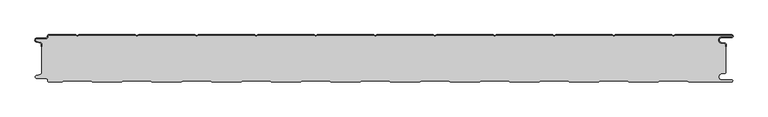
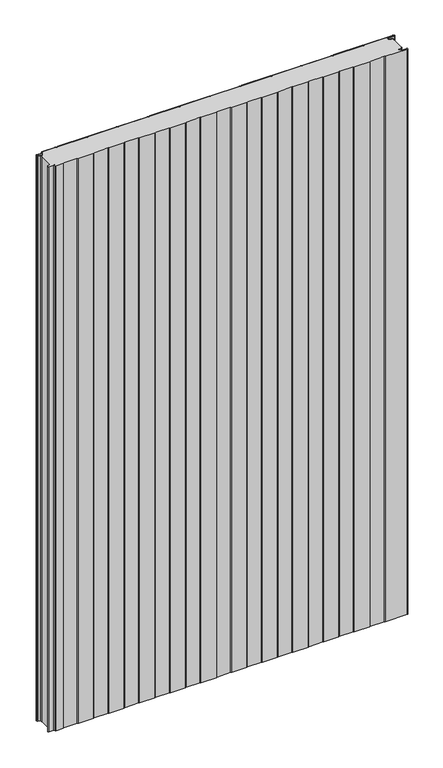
"""IFC4 building model written with IfcOpenShell, lengths in millimetres: plate geometry, PM1_Curtain-Panel_Perfil-Estándar : ACH_PM1_Panel-Acústico-Sectorización_80M."""

from ifc_helpers import new_model, si_unit, point, frame, frame_2d, origin, origin_with_axes, place, context, project, spatial, polyline, circle_curve, trimmed, segment, composite_curve, outline, extrude, source, transform, mapped, element, save
from ifc_brep_helpers import plane_surface, cylinder_surface, revolved_surface, advanced_brep


def plate_73e4d42a(model_context):
    return source(origin(), model_context, "Body", "SolidModel", [
        advanced_brep(
        [(-575.0, -15.878557, 1945.7507136), (-575.0, -20.0, 1945.7507136), (-574.2, -20.0, 1945.7507136), (-574.2, -15.878557, 1945.7507136), (-576.370137, -13.1503208, 1945.7507136), (-582.529863, -11.728236, 1945.7507136), (-581.9, -6.2, 1945.7507136), (-566.4, -6.2, 1945.7507136), (-563.6, -3.4, 1945.7507136), (-563.6, -2.0, 1945.7507136), (-562.4, -0.8, 1945.7507136), (-517.3143588, -0.8, 1945.7507136), (-514.4, -2.482606, 1945.7507136), (-511.4856412, -0.8, 1945.7507136), (-417.3143588, -0.8, 1945.7507136), (-414.4, -2.482606, 1945.7507136), (-411.4856412, -0.8, 1945.7507136), (-317.3143588, -0.8, 1945.7507136), (-314.4, -2.482606, 1945.7507136), (-311.4856412, -0.8, 1945.7507136), (-217.3143588, -0.8, 1945.7507136), (-214.4, -2.482606, 1945.7507136), (-211.4856412, -0.8, 1945.7507136), (-117.3143588, -0.8, 1945.7507136), (-114.4, -2.482606, 1945.7507136), (-111.4856412, -0.8, 1945.7507136), (-17.3143588, -0.8, 1945.7507136), (-14.4, -2.482606, 1945.7507136), (-11.4856412, -0.8, 1945.7507136), (82.6856412, -0.8, 1945.7507136), (85.6, -2.482606, 1945.7507136), (88.5143588, -0.8, 1945.7507136), (182.6856412, -0.8, 1945.7507136), (185.6, -2.482606, 1945.7507136), (188.5143588, -0.8, 1945.7507136), (282.6856412, -0.8, 1945.7507136), (285.6, -2.482606, 1945.7507136), (288.5143588, -0.8, 1945.7507136), (382.6856412, -0.8, 1945.7507136), (385.6, -2.482606, 1945.7507136), (388.5143588, -0.8, 1945.7507136), (482.6856412, -0.8, 1945.7507136), (485.6, -2.482606, 1945.7507136), (488.5143588, -0.8, 1945.7507136), (583.1, -0.8, 1945.7507136), (583.1, -4.2, 1945.7507136), (566.1, -4.2, 1945.7507136), (565.2664884, -13.7270771, 1945.7507136), (571.7125669, -14.8636953, 1945.7507136), (573.2, -16.6363492, 1945.7507136), (573.2, -20.0, 1945.7507136), (574.0, -20.0, 1945.7507136), (574.0, -16.6363492, 1945.7507136), (571.8514855, -14.0758491, 1945.7507136), (565.405407, -12.939231, 1945.7507136), (566.1, -5.0, 1945.7507136), (583.1, -5.0, 1945.7507136), (585.6, -2.5, 1945.7507136), (583.1, 0.0, 1945.7507136), (488.2999995, 0.0, 1945.7507136), (485.6, -1.5588455, 1945.7507136), (482.9000005, 0.0, 1945.7507136), (388.2999995, 0.0, 1945.7507136), (385.6, -1.5588455, 1945.7507136), (382.9000005, 0.0, 1945.7507136), (288.2999995, 0.0, 1945.7507136), (285.6, -1.5588455, 1945.7507136), (282.9000005, 0.0, 1945.7507136), (188.2999995, 0.0, 1945.7507136), (185.6, -1.5588455, 1945.7507136), (182.9000005, 0.0, 1945.7507136), (88.2999995, 0.0, 1945.7507136), (85.6, -1.5588455, 1945.7507136), (82.9000005, 0.0, 1945.7507136), (-11.7000005, 0.0, 1945.7507136), (-14.4, -1.5588455, 1945.7507136), (-17.0999995, 0.0, 1945.7507136), (-111.7000005, 0.0, 1945.7507136), (-114.4, -1.5588455, 1945.7507136), (-117.0999995, 0.0, 1945.7507136), (-211.7000005, 0.0, 1945.7507136), (-214.4, -1.5588455, 1945.7507136), (-217.0999995, 0.0, 1945.7507136), (-311.7000005, 0.0, 1945.7507136), (-314.4, -1.5588455, 1945.7507136), (-317.0999995, 0.0, 1945.7507136), (-411.7000005, 0.0, 1945.7507136), (-414.4, -1.5588455, 1945.7507136), (-417.0999995, 0.0, 1945.7507136), (-511.7000005, 0.0, 1945.7507136), (-514.4, -1.5588455, 1945.7507136), (-517.0999995, 0.0, 1945.7507136), (-562.4, 0.0, 1945.7507136), (-564.4, -2.0, 1945.7507136), (-564.4, -3.4, 1945.7507136), (-566.4, -5.4, 1945.7507136), (-581.9, -5.4, 1945.7507136), (-582.7098239, -12.5077322, 1945.7507136), (-576.5500979, -13.929817, 1945.7507136), (-575.0, -15.878557, 0.0), (-576.5500978, -13.9298169, 0.0), (-582.7098239, -12.507732, 0.0), (-581.9, -5.4, 0.0), (-566.4, -5.4, 0.0), (-564.4, -3.4, 0.0), (-564.4, -2.0, 0.0), (-562.4, 0.0, 0.0), (-517.0999995, 0.0, 0.0), (-514.4, -1.5588455, 0.0), (-511.7000005, 0.0, 0.0), (-417.0999995, 0.0, 0.0), (-414.4, -1.5588455, 0.0), (-411.7000005, 0.0, 0.0), (-317.0999995, 0.0, 0.0), (-314.4, -1.5588455, 0.0), (-311.7000005, 0.0, 0.0), (-217.0999995, 0.0, 0.0), (-214.4, -1.5588455, 0.0), (-211.7000005, 0.0, 0.0), (-117.0999995, 0.0, 0.0), (-114.4, -1.5588455, 0.0), (-111.7000005, 0.0, 0.0), (-17.0999995, 0.0, 0.0), (-14.4, -1.5588455, 0.0), (-11.7000005, 0.0, 0.0), (82.9000005, 0.0, 0.0), (85.6, -1.5588455, 0.0), (88.2999995, 0.0, 0.0), (182.9000005, 0.0, 0.0), (185.6, -1.5588455, 0.0), (188.2999995, 0.0, 0.0), (282.9000005, 0.0, 0.0), (285.6, -1.5588455, 0.0), (288.2999995, 0.0, 0.0), (382.9000005, 0.0, 0.0), (385.6, -1.5588455, 0.0), (388.2999995, 0.0, 0.0), (482.9000005, 0.0, 0.0), (485.6, -1.5588455, 0.0), (488.2999995, 0.0, 0.0), (583.1, 0.0, 0.0), (585.6, -2.5, 0.0), (583.1, -5.0, 0.0), (566.1, -5.0, 0.0), (565.405407, -12.939231, 0.0), (571.8514855, -14.0758491, 0.0), (574.0, -16.6363492, 0.0), (574.0, -20.0, 0.0), (573.2, -20.0, 0.0), (573.2, -16.6363492, 0.0), (571.7125669, -14.8636953, 0.0), (565.2664884, -13.7270772, 0.0), (566.1, -4.2, 0.0), (583.1, -4.2, 0.0), (583.1, -0.8, 0.0), (488.5143588, -0.8, 0.0), (485.6, -2.482606, 0.0), (482.6856412, -0.8, 0.0), (388.5143588, -0.8, 0.0), (385.6, -2.482606, 0.0), (382.6856412, -0.8, 0.0), (288.5143588, -0.8, 0.0), (285.6, -2.482606, 0.0), (282.6856412, -0.8, 0.0), (188.5143588, -0.8, 0.0), (185.6, -2.482606, 0.0), (182.6856412, -0.8, 0.0), (88.5143588, -0.8, 0.0), (85.6, -2.482606, 0.0), (82.6856412, -0.8, 0.0), (-11.4856412, -0.8, 0.0), (-14.4, -2.482606, 0.0), (-17.3143588, -0.8, 0.0), (-111.4856412, -0.8, 0.0), (-114.4, -2.482606, 0.0), (-117.3143588, -0.8, 0.0), (-211.4856412, -0.8, 0.0), (-214.4, -2.482606, 0.0), (-217.3143588, -0.8, 0.0), (-311.4856412, -0.8, 0.0), (-314.4, -2.482606, 0.0), (-317.3143588, -0.8, 0.0), (-411.4856412, -0.8, 0.0), (-414.4, -2.482606, 0.0), (-417.3143588, -0.8, 0.0), (-511.4856412, -0.8, 0.0), (-514.4, -2.482606, 0.0), (-517.3143588, -0.8, 0.0), (-562.4, -0.8, 0.0), (-563.6, -2.0, 0.0), (-563.6, -3.4, 0.0), (-566.4, -6.2, 0.0), (-581.9, -6.2, 0.0), (-582.529863, -11.7282362, 0.0), (-576.370137, -13.150321, 0.0), (-574.2, -15.878557, 0.0), (-574.2, -20.0, 0.0), (-575.0, -20.0, 0.0)],
        [
            (0, 1),
            (1, 2),
            (2, 3),
            (3, 4, circle_curve(frame((-577.0, -15.878557, 1945.7507136), z_axis=(0.0, 0.0, 1.0), x_axis=(1.0, 0.0, 0.0)), 2.8)),
            (4, 5),
            (5, 6, circle_curve(frame((-581.9, -9.0, 1945.7507136), z_axis=(0.0, 0.0, -1.0), x_axis=(1.0, 0.0, 0.0)), 2.8)),
            (6, 7),
            (7, 8, circle_curve(frame((-566.4, -3.4, 1945.7507136), z_axis=(0.0, 0.0, 1.0), x_axis=(1.0, 0.0, 0.0)), 2.8)),
            (8, 9),
            (9, 10, circle_curve(frame((-562.4, -2.0, 1945.7507136), z_axis=(0.0, 0.0, -1.0), x_axis=(1.0, 0.0, 0.0)), 1.2)),
            (10, 11),
            (11, 12),
            (12, 13),
            (13, 14),
            (14, 15),
            (15, 16),
            (16, 17),
            (17, 18),
            (18, 19),
            (19, 20),
            (20, 21),
            (21, 22),
            (22, 23),
            (23, 24),
            (24, 25),
            (25, 26),
            (26, 27),
            (27, 28),
            (28, 29),
            (29, 30),
            (30, 31),
            (31, 32),
            (32, 33),
            (33, 34),
            (34, 35),
            (35, 36),
            (36, 37),
            (37, 38),
            (38, 39),
            (39, 40),
            (40, 41),
            (41, 42),
            (42, 43),
            (43, 44),
            (44, 45, circle_curve(frame((583.1, -2.5, 1945.7507136), z_axis=(0.0, 0.0, -1.0), x_axis=(1.0, 0.0, 0.0)), 1.7)),
            (45, 46),
            (46, 47, circle_curve(frame((566.1, -9.0, 1945.7507136), z_axis=(0.0, 0.0, 1.0), x_axis=(1.0, 0.0, 0.0)), 4.8)),
            (47, 48),
            (48, 49, circle_curve(frame((571.4, -16.6363492, 1945.7507136), z_axis=(0.0, 0.0, -1.0), x_axis=(1.0, 0.0, 0.0)), 1.8)),
            (49, 50),
            (50, 51),
            (51, 52),
            (52, 53, circle_curve(frame((571.4, -16.6363492, 1945.7507136), z_axis=(0.0, 0.0, 1.0), x_axis=(1.0, 0.0, 0.0)), 2.6)),
            (53, 54),
            (54, 55, circle_curve(frame((566.1, -9.0, 1945.7507136), z_axis=(0.0, 0.0, -1.0), x_axis=(1.0, 0.0, 0.0)), 4.0)),
            (55, 56),
            (56, 57, circle_curve(frame((583.1, -2.5, 1945.7507136), z_axis=(0.0, 0.0, 1.0), x_axis=(1.0, 0.0, 0.0)), 2.5)),
            (57, 58, circle_curve(frame((583.1, -2.5, 1945.7507136), z_axis=(0.0, 0.0, 1.0), x_axis=(1.0, 0.0, 0.0)), 2.5)),
            (58, 59),
            (59, 60),
            (60, 61),
            (61, 62),
            (62, 63),
            (63, 64),
            (64, 65),
            (65, 66),
            (66, 67),
            (67, 68),
            (68, 69),
            (69, 70),
            (70, 71),
            (71, 72),
            (72, 73),
            (73, 74),
            (74, 75),
            (75, 76),
            (76, 77),
            (77, 78),
            (78, 79),
            (79, 80),
            (80, 81),
            (81, 82),
            (82, 83),
            (83, 84),
            (84, 85),
            (85, 86),
            (86, 87),
            (87, 88),
            (88, 89),
            (89, 90),
            (90, 91),
            (91, 92),
            (92, 93, circle_curve(frame((-562.4, -2.0, 1945.7507136), z_axis=(0.0, 0.0, 1.0), x_axis=(1.0, 0.0, 0.0)), 2.0)),
            (93, 94),
            (94, 95, circle_curve(frame((-566.4, -3.4, 1945.7507136), z_axis=(0.0, 0.0, -1.0), x_axis=(1.0, 0.0, 0.0)), 2.0)),
            (95, 96),
            (96, 97, circle_curve(frame((-581.9, -9.0, 1945.7507136), z_axis=(0.0, 0.0, 1.0), x_axis=(1.0, 0.0, 0.0)), 3.6)),
            (97, 98),
            (98, 0, circle_curve(frame((-577.0, -15.878557, 1945.7507136), z_axis=(0.0, 0.0, -1.0), x_axis=(1.0, 0.0, 0.0)), 2.0)),
            (99, 100, circle_curve(frame((-577.0, -15.878557, 0.0), z_axis=(0.0, 0.0, 1.0), x_axis=(1.0, 0.0, 0.0)), 2.0)),
            (100, 101),
            (101, 102, circle_curve(frame((-581.9, -9.0, 0.0), z_axis=(0.0, 0.0, -1.0), x_axis=(1.0, 0.0, 0.0)), 3.6)),
            (102, 103),
            (103, 104, circle_curve(frame((-566.4, -3.4, 0.0), z_axis=(0.0, 0.0, 1.0), x_axis=(1.0, 0.0, 0.0)), 2.0)),
            (104, 105),
            (105, 106, circle_curve(frame((-562.4, -2.0, 0.0), z_axis=(0.0, 0.0, -1.0), x_axis=(1.0, 0.0, 0.0)), 2.0)),
            (106, 107),
            (107, 108),
            (108, 109),
            (109, 110),
            (110, 111),
            (111, 112),
            (112, 113),
            (113, 114),
            (114, 115),
            (115, 116),
            (116, 117),
            (117, 118),
            (118, 119),
            (119, 120),
            (120, 121),
            (121, 122),
            (122, 123),
            (123, 124),
            (124, 125),
            (125, 126),
            (126, 127),
            (127, 128),
            (128, 129),
            (129, 130),
            (130, 131),
            (131, 132),
            (132, 133),
            (133, 134),
            (134, 135),
            (135, 136),
            (136, 137),
            (137, 138),
            (138, 139),
            (139, 140),
            (140, 141, circle_curve(frame((583.1, -2.5, 0.0), z_axis=(0.0, 0.0, -1.0), x_axis=(1.0, 0.0, 0.0)), 2.5)),
            (141, 142, circle_curve(frame((583.1, -2.5, 0.0), z_axis=(0.0, 0.0, -1.0), x_axis=(1.0, 0.0, 0.0)), 2.5)),
            (142, 143),
            (143, 144, circle_curve(frame((566.1, -9.0, 0.0), z_axis=(0.0, 0.0, 1.0), x_axis=(1.0, 0.0, 0.0)), 4.0)),
            (144, 145),
            (145, 146, circle_curve(frame((571.4, -16.6363492, 0.0), z_axis=(0.0, 0.0, -1.0), x_axis=(1.0, 0.0, 0.0)), 2.6)),
            (146, 147),
            (147, 148),
            (148, 149),
            (149, 150, circle_curve(frame((571.4, -16.6363492, 0.0), z_axis=(0.0, 0.0, 1.0), x_axis=(1.0, 0.0, 0.0)), 1.8)),
            (150, 151),
            (151, 152, circle_curve(frame((566.1, -9.0, 0.0), z_axis=(0.0, 0.0, -1.0), x_axis=(1.0, 0.0, 0.0)), 4.8)),
            (152, 153),
            (153, 154, circle_curve(frame((583.1, -2.5, 0.0), z_axis=(0.0, 0.0, 1.0), x_axis=(1.0, 0.0, 0.0)), 1.7)),
            (154, 155),
            (155, 156),
            (156, 157),
            (157, 158),
            (158, 159),
            (159, 160),
            (160, 161),
            (161, 162),
            (162, 163),
            (163, 164),
            (164, 165),
            (165, 166),
            (166, 167),
            (167, 168),
            (168, 169),
            (169, 170),
            (170, 171),
            (171, 172),
            (172, 173),
            (173, 174),
            (174, 175),
            (175, 176),
            (176, 177),
            (177, 178),
            (178, 179),
            (179, 180),
            (180, 181),
            (181, 182),
            (182, 183),
            (183, 184),
            (184, 185),
            (185, 186),
            (186, 187),
            (187, 188),
            (188, 189, circle_curve(frame((-562.4, -2.0, 0.0), z_axis=(0.0, 0.0, 1.0), x_axis=(1.0, 0.0, 0.0)), 1.2)),
            (189, 190),
            (190, 191, circle_curve(frame((-566.4, -3.4, 0.0), z_axis=(0.0, 0.0, -1.0), x_axis=(1.0, 0.0, 0.0)), 2.8)),
            (191, 192),
            (192, 193, circle_curve(frame((-581.9, -9.0, 0.0), z_axis=(0.0, 0.0, 1.0), x_axis=(1.0, 0.0, 0.0)), 2.8)),
            (193, 194),
            (194, 195, circle_curve(frame((-577.0, -15.878557, 0.0), z_axis=(0.0, 0.0, -1.0), x_axis=(1.0, 0.0, 0.0)), 2.8)),
            (195, 196),
            (196, 197),
            (197, 99),
            (0, 99),
            (197, 1),
            (196, 2),
            (195, 3),
            (194, 4),
            (193, 5),
            (192, 6),
            (191, 7),
            (190, 8),
            (189, 9),
            (188, 10),
            (187, 11),
            (186, 12),
            (185, 13),
            (184, 14),
            (183, 15),
            (182, 16),
            (181, 17),
            (180, 18),
            (179, 19),
            (178, 20),
            (177, 21),
            (176, 22),
            (175, 23),
            (174, 24),
            (173, 25),
            (172, 26),
            (171, 27),
            (170, 28),
            (169, 29),
            (168, 30),
            (167, 31),
            (166, 32),
            (165, 33),
            (164, 34),
            (163, 35),
            (162, 36),
            (161, 37),
            (160, 38),
            (159, 39),
            (158, 40),
            (157, 41),
            (156, 42),
            (155, 43),
            (154, 44),
            (153, 45),
            (152, 46),
            (151, 47),
            (150, 48),
            (149, 49),
            (148, 50),
            (147, 51),
            (146, 52),
            (145, 53),
            (144, 54),
            (143, 55),
            (142, 56),
            (140, 58),
            (139, 59),
            (138, 60),
            (137, 61),
            (136, 62),
            (135, 63),
            (134, 64),
            (133, 65),
            (132, 66),
            (131, 67),
            (130, 68),
            (129, 69),
            (128, 70),
            (127, 71),
            (126, 72),
            (125, 73),
            (124, 74),
            (123, 75),
            (122, 76),
            (121, 77),
            (120, 78),
            (119, 79),
            (118, 80),
            (117, 81),
            (116, 82),
            (115, 83),
            (114, 84),
            (113, 85),
            (112, 86),
            (111, 87),
            (110, 88),
            (109, 89),
            (108, 90),
            (107, 91),
            (106, 92),
            (105, 93),
            (104, 94),
            (103, 95),
            (102, 96),
            (101, 97),
            (100, 98),
        ],
        [
            plane_surface(frame((-575.0, 0.0, 1945.7507136), z_axis=(0.0, 0.0, 1.0), x_axis=(0.0, 1.0, 0.0))),
            plane_surface(frame((-575.0, 0.0, 0.0), z_axis=(0.0, 0.0, -1.0), x_axis=(0.0, 1.0, 0.0))),
            plane_surface(frame((-575.0, -15.878557, 1945.7507136), z_axis=(-1.0, 0.0, 0.0), x_axis=(0.0, 0.0, -1.0))),
            plane_surface(frame((-575.0, -20.0, 1945.7507136), z_axis=(0.0, -1.0, 0.0), x_axis=(0.0, 0.0, -1.0))),
            plane_surface(frame((-574.2, -20.0, 1945.7507136), z_axis=(1.0, 0.0, 0.0), x_axis=(0.0, 0.0, -1.0))),
            cylinder_surface(frame((-577.0, -15.878557, 1945.7507136), z_axis=(0.0, 0.0, 1.0), x_axis=(1.0, 0.0, 0.0)), 2.8),
            plane_surface(frame((-576.370137, -13.150321, 1945.7507136), z_axis=(0.22495108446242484, 0.9743700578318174, 0.0), x_axis=(0.0, 0.0, -1.0))),
            revolved_surface(polyline([(-579.1, -9.0, 0.0), (-579.1, -9.0, 1945.7507136)]), (-581.9, -9.0, 1945.7507136), (0.0, 0.0, -1.0)),
            plane_surface(frame((-581.9, -6.2, 1945.7507136), z_axis=(0.0, -1.0, 0.0), x_axis=(0.0, 0.0, -1.0))),
            cylinder_surface(frame((-566.4, -3.4, 1945.7507136), z_axis=(0.0, 0.0, 1.0), x_axis=(1.0, 0.0, 0.0)), 2.8),
            plane_surface(frame((-563.6, -3.4, 1945.7507136), z_axis=(1.0, 0.0, 0.0), x_axis=(0.0, 0.0, -1.0))),
            revolved_surface(polyline([(-561.1999999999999, -2.0, 0.0), (-561.1999999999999, -2.0, 1945.7507136)]), (-562.4, -2.0, 1945.7507136), (0.0, 0.0, -1.0)),
            plane_surface(frame((-562.4, -0.8, 1945.7507136), z_axis=(0.0, -1.0, 0.0), x_axis=(0.0, 0.0, -1.0))),
            plane_surface(frame((-517.3143588, -0.8, 1945.7507136), z_axis=(-0.5000000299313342, -0.8660253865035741, 0.0), x_axis=(0.0, 0.0, -1.0))),
            plane_surface(frame((-514.4, -2.482606, 1945.7507136), z_axis=(0.5000000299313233, -0.8660253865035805, 0.0), x_axis=(0.0, 0.0, -1.0))),
            plane_surface(frame((-511.4856412, -0.8, 1945.7507136), z_axis=(0.0, -1.0, 0.0), x_axis=(0.0, 0.0, -1.0))),
            plane_surface(frame((-417.3143588, -0.8, 1945.7507136), z_axis=(-0.5000000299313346, -0.8660253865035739, 0.0), x_axis=(0.0, 0.0, -1.0))),
            plane_surface(frame((-414.4, -2.482606, 1945.7507136), z_axis=(0.5000000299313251, -0.8660253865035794, 0.0), x_axis=(0.0, 0.0, -1.0))),
            plane_surface(frame((-411.4856412, -0.8, 1945.7507136), z_axis=(0.0, -1.0, 0.0), x_axis=(0.0, 0.0, -1.0))),
            plane_surface(frame((-317.3143588, -0.8, 1945.7507136), z_axis=(-0.5000000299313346, -0.866025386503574, 0.0), x_axis=(0.0, 0.0, -1.0))),
            plane_surface(frame((-314.4, -2.482606, 1945.7507136), z_axis=(0.5000000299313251, -0.8660253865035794, 0.0), x_axis=(0.0, 0.0, -1.0))),
            plane_surface(frame((-311.4856412, -0.8, 1945.7507136), z_axis=(0.0, -1.0, 0.0), x_axis=(0.0, 0.0, -1.0))),
            plane_surface(frame((-217.3143588, -0.8, 1945.7507136), z_axis=(-0.5000000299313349, -0.8660253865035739, 0.0), x_axis=(0.0, 0.0, -1.0))),
            plane_surface(frame((-214.4, -2.482606, 1945.7507136), z_axis=(0.5000000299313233, -0.8660253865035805, 0.0), x_axis=(0.0, 0.0, -1.0))),
            plane_surface(frame((-211.4856412, -0.8, 1945.7507136), z_axis=(0.0, -1.0, 0.0), x_axis=(0.0, 0.0, -1.0))),
            plane_surface(frame((-117.3143588, -0.8, 1945.7507136), z_axis=(-0.5000000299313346, -0.866025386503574, 0.0), x_axis=(0.0, 0.0, -1.0))),
            plane_surface(frame((-114.4, -2.482606, 1945.7507136), z_axis=(0.5000000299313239, -0.8660253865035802, 0.0), x_axis=(0.0, 0.0, -1.0))),
            plane_surface(frame((-111.4856412, -0.8, 1945.7507136), z_axis=(0.0, -1.0, 0.0), x_axis=(0.0, 0.0, -1.0))),
            plane_surface(frame((-17.3143588, -0.8, 1945.7507136), z_axis=(-0.5000000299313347, -0.8660253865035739, 0.0), x_axis=(0.0, 0.0, -1.0))),
            plane_surface(frame((-14.4, -2.482606, 1945.7507136), z_axis=(0.5000000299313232, -0.8660253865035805, 0.0), x_axis=(0.0, 0.0, -1.0))),
            plane_surface(frame((-11.4856412, -0.8, 1945.7507136), z_axis=(0.0, -1.0, 0.0), x_axis=(0.0, 0.0, -1.0))),
            plane_surface(frame((82.6856412, -0.8, 1945.7507136), z_axis=(-0.5000000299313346, -0.866025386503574, 0.0), x_axis=(0.0, 0.0, -1.0))),
            plane_surface(frame((85.6, -2.482606, 1945.7507136), z_axis=(0.5000000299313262, -0.8660253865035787, 0.0), x_axis=(0.0, 0.0, -1.0))),
            plane_surface(frame((88.5143588, -0.8, 1945.7507136), z_axis=(0.0, -1.0, 0.0), x_axis=(0.0, 0.0, -1.0))),
            plane_surface(frame((182.6856412, -0.8, 1945.7507136), z_axis=(-0.5000000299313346, -0.8660253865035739, 0.0), x_axis=(0.0, 0.0, -1.0))),
            plane_surface(frame((185.6, -2.482606, 1945.7507136), z_axis=(0.5000000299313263, -0.8660253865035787, 0.0), x_axis=(0.0, 0.0, -1.0))),
            plane_surface(frame((188.5143588, -0.8, 1945.7507136), z_axis=(0.0, -1.0, 0.0), x_axis=(0.0, 0.0, -1.0))),
            plane_surface(frame((282.6856412, -0.8, 1945.7507136), z_axis=(-0.5000000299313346, -0.8660253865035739, 0.0), x_axis=(0.0, 0.0, -1.0))),
            plane_surface(frame((285.6, -2.482606, 1945.7507136), z_axis=(0.5000000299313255, -0.8660253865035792, 0.0), x_axis=(0.0, 0.0, -1.0))),
            plane_surface(frame((288.5143588, -0.8, 1945.7507136), z_axis=(0.0, -1.0, 0.0), x_axis=(0.0, 0.0, -1.0))),
            plane_surface(frame((382.6856412, -0.8, 1945.7507136), z_axis=(-0.5000000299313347, -0.8660253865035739, 0.0), x_axis=(0.0, 0.0, -1.0))),
            plane_surface(frame((385.6, -2.482606, 1945.7507136), z_axis=(0.5000000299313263, -0.8660253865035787, 0.0), x_axis=(0.0, 0.0, -1.0))),
            plane_surface(frame((388.5143588, -0.8, 1945.7507136), z_axis=(0.0, -1.0, 0.0), x_axis=(0.0, 0.0, -1.0))),
            plane_surface(frame((482.6856412, -0.8, 1945.7507136), z_axis=(-0.5000000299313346, -0.866025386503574, 0.0), x_axis=(0.0, 0.0, -1.0))),
            plane_surface(frame((485.6, -2.482606, 1945.7507136), z_axis=(0.5000000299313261, -0.8660253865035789, 0.0), x_axis=(0.0, 0.0, -1.0))),
            plane_surface(frame((535.6, -0.8, 1945.7507136), z_axis=(0.0, -1.0, 0.0), x_axis=(0.0, 0.0, -1.0))),
            revolved_surface(polyline([(584.8000000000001, -2.5, 0.0), (584.8000000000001, -2.5, 1945.7507136)]), (583.1, -2.5, 1945.7507136), (0.0, 0.0, -1.0)),
            plane_surface(frame((583.1, -4.2, 1945.7507136), z_axis=(0.0, 1.0, 0.0), x_axis=(0.0, 0.0, -1.0))),
            cylinder_surface(frame((566.1, -9.0, 1945.7507136), z_axis=(0.0, 0.0, 1.0), x_axis=(1.0, 0.0, 0.0)), 4.8),
            plane_surface(frame((565.2664884, -13.7270772, 1945.7507136), z_axis=(-0.17364825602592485, -0.9848077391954, 0.0), x_axis=(0.0, 0.0, -1.0))),
            revolved_surface(polyline([(573.1999999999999, -16.6363492, 0.0), (573.1999999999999, -16.6363492, 1945.7507136)]), (571.4, -16.6363492, 1945.7507136), (0.0, 0.0, -1.0)),
            plane_surface(frame((573.2, -16.6363492, 1945.7507136), z_axis=(-1.0, 0.0, 0.0), x_axis=(0.0, 0.0, -1.0))),
            plane_surface(frame((573.2, -20.0, 1945.7507136), z_axis=(0.0, -1.0, 0.0), x_axis=(0.0, 0.0, -1.0))),
            plane_surface(frame((574.0, -20.0, 1945.7507136), z_axis=(1.0, 0.0, 0.0), x_axis=(0.0, 0.0, -1.0))),
            cylinder_surface(frame((571.4, -16.6363492, 1945.7507136), z_axis=(0.0, 0.0, 1.0), x_axis=(1.0, 0.0, 0.0)), 2.6),
            plane_surface(frame((571.8514855, -14.0758491, 1945.7507136), z_axis=(0.1736482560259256, 0.9848077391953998, 0.0), x_axis=(0.0, 0.0, -1.0))),
            revolved_surface(polyline([(570.1, -9.0, 0.0), (570.1, -9.0, 1945.7507136)]), (566.1, -9.0, 1945.7507136), (0.0, 0.0, -1.0)),
            plane_surface(frame((566.1, -5.0, 1945.7507136), z_axis=(0.0, -1.0, 0.0), x_axis=(0.0, 0.0, -1.0))),
            cylinder_surface(frame((583.1, -2.5, 1945.7507136), z_axis=(0.0, 0.0, 1.0), x_axis=(1.0, 0.0, 0.0)), 2.5),
            plane_surface(frame((535.6, 0.0, 1945.7507136), z_axis=(0.0, 1.0, 0.0), x_axis=(0.0, 0.0, -1.0))),
            plane_surface(frame((488.2999995, 0.0, 1945.7507136), z_axis=(-0.5000000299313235, 0.8660253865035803, 0.0), x_axis=(0.0, 0.0, -1.0))),
            plane_surface(frame((485.6, -1.5588455, 1945.7507136), z_axis=(0.5000000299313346, 0.8660253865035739, 0.0), x_axis=(0.0, 0.0, -1.0))),
            plane_surface(frame((482.9000005, 0.0, 1945.7507136), z_axis=(0.0, 1.0, 0.0), x_axis=(0.0, 0.0, -1.0))),
            plane_surface(frame((388.2999995, 0.0, 1945.7507136), z_axis=(-0.5000000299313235, 0.8660253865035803, 0.0), x_axis=(0.0, 0.0, -1.0))),
            plane_surface(frame((385.6, -1.5588455, 1945.7507136), z_axis=(0.5000000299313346, 0.8660253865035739, 0.0), x_axis=(0.0, 0.0, -1.0))),
            plane_surface(frame((382.9000005, 0.0, 1945.7507136), z_axis=(0.0, 1.0, 0.0), x_axis=(0.0, 0.0, -1.0))),
            plane_surface(frame((288.2999995, 0.0, 1945.7507136), z_axis=(-0.5000000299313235, 0.8660253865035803, 0.0), x_axis=(0.0, 0.0, -1.0))),
            plane_surface(frame((285.6, -1.5588455, 1945.7507136), z_axis=(0.5000000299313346, 0.8660253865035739, 0.0), x_axis=(0.0, 0.0, -1.0))),
            plane_surface(frame((282.9000005, 0.0, 1945.7507136), z_axis=(0.0, 1.0, 0.0), x_axis=(0.0, 0.0, -1.0))),
            plane_surface(frame((188.2999995, 0.0, 1945.7507136), z_axis=(-0.5000000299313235, 0.8660253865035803, 0.0), x_axis=(0.0, 0.0, -1.0))),
            plane_surface(frame((185.6, -1.5588455, 1945.7507136), z_axis=(0.5000000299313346, 0.8660253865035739, 0.0), x_axis=(0.0, 0.0, -1.0))),
            plane_surface(frame((182.9000005, 0.0, 1945.7507136), z_axis=(0.0, 1.0, 0.0), x_axis=(0.0, 0.0, -1.0))),
            plane_surface(frame((88.2999995, 0.0, 1945.7507136), z_axis=(-0.5000000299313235, 0.8660253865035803, 0.0), x_axis=(0.0, 0.0, -1.0))),
            plane_surface(frame((85.6, -1.5588455, 1945.7507136), z_axis=(0.5000000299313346, 0.8660253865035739, 0.0), x_axis=(0.0, 0.0, -1.0))),
            plane_surface(frame((82.9000005, 0.0, 1945.7507136), z_axis=(0.0, 1.0, 0.0), x_axis=(0.0, 0.0, -1.0))),
            plane_surface(frame((-11.7000005, 0.0, 1945.7507136), z_axis=(-0.5000000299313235, 0.8660253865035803, 0.0), x_axis=(0.0, 0.0, -1.0))),
            plane_surface(frame((-14.4, -1.5588455, 1945.7507136), z_axis=(0.5000000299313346, 0.8660253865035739, 0.0), x_axis=(0.0, 0.0, -1.0))),
            plane_surface(frame((-17.0999995, 0.0, 1945.7507136), z_axis=(0.0, 1.0, 0.0), x_axis=(0.0, 0.0, -1.0))),
            plane_surface(frame((-111.7000005, 0.0, 1945.7507136), z_axis=(-0.5000000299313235, 0.8660253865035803, 0.0), x_axis=(0.0, 0.0, -1.0))),
            plane_surface(frame((-114.4, -1.5588455, 1945.7507136), z_axis=(0.5000000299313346, 0.8660253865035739, 0.0), x_axis=(0.0, 0.0, -1.0))),
            plane_surface(frame((-117.0999995, 0.0, 1945.7507136), z_axis=(0.0, 1.0, 0.0), x_axis=(0.0, 0.0, -1.0))),
            plane_surface(frame((-211.7000005, 0.0, 1945.7507136), z_axis=(-0.5000000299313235, 0.8660253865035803, 0.0), x_axis=(0.0, 0.0, -1.0))),
            plane_surface(frame((-214.4, -1.5588455, 1945.7507136), z_axis=(0.5000000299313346, 0.8660253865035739, 0.0), x_axis=(0.0, 0.0, -1.0))),
            plane_surface(frame((-217.0999995, 0.0, 1945.7507136), z_axis=(0.0, 1.0, 0.0), x_axis=(0.0, 0.0, -1.0))),
            plane_surface(frame((-311.7000005, 0.0, 1945.7507136), z_axis=(-0.5000000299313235, 0.8660253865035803, 0.0), x_axis=(0.0, 0.0, -1.0))),
            plane_surface(frame((-314.4, -1.5588455, 1945.7507136), z_axis=(0.5000000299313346, 0.8660253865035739, 0.0), x_axis=(0.0, 0.0, -1.0))),
            plane_surface(frame((-317.0999995, 0.0, 1945.7507136), z_axis=(0.0, 1.0, 0.0), x_axis=(0.0, 0.0, -1.0))),
            plane_surface(frame((-411.7000005, 0.0, 1945.7507136), z_axis=(-0.5000000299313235, 0.8660253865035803, 0.0), x_axis=(0.0, 0.0, -1.0))),
            plane_surface(frame((-414.4, -1.5588455, 1945.7507136), z_axis=(0.5000000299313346, 0.8660253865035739, 0.0), x_axis=(0.0, 0.0, -1.0))),
            plane_surface(frame((-417.0999995, 0.0, 1945.7507136), z_axis=(0.0, 1.0, 0.0), x_axis=(0.0, 0.0, -1.0))),
            plane_surface(frame((-511.7000005, 0.0, 1945.7507136), z_axis=(-0.5000000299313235, 0.8660253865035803, 0.0), x_axis=(0.0, 0.0, -1.0))),
            plane_surface(frame((-514.4, -1.5588455, 1945.7507136), z_axis=(0.5000000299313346, 0.8660253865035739, 0.0), x_axis=(0.0, 0.0, -1.0))),
            plane_surface(frame((-517.0999995, 0.0, 1945.7507136), z_axis=(0.0, 1.0, 0.0), x_axis=(0.0, 0.0, -1.0))),
            cylinder_surface(frame((-562.4, -2.0, 1945.7507136), z_axis=(0.0, 0.0, 1.0), x_axis=(1.0, 0.0, 0.0)), 2.0),
            plane_surface(frame((-564.4, -2.0, 1945.7507136), z_axis=(-1.0, 0.0, 0.0), x_axis=(0.0, 0.0, -1.0))),
            revolved_surface(polyline([(-564.4, -3.4, 0.0), (-564.4, -3.4, 1945.7507136)]), (-566.4, -3.4, 1945.7507136), (0.0, 0.0, -1.0)),
            plane_surface(frame((-566.4, -5.4, 1945.7507136), z_axis=(0.0, 1.0, 0.0), x_axis=(0.0, 0.0, -1.0))),
            cylinder_surface(frame((-581.9, -9.0, 1945.7507136), z_axis=(0.0, 0.0, 1.0), x_axis=(1.0, 0.0, 0.0)), 3.6),
            plane_surface(frame((-582.7098239, -12.507732, 1945.7507136), z_axis=(-0.22495108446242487, -0.9743700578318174, 0.0), x_axis=(0.0, 0.0, -1.0))),
            revolved_surface(polyline([(-575.0, -15.878557, 0.0), (-575.0, -15.878557, 1945.7507136)]), (-577.0, -15.878557, 1945.7507136), (0.0, 0.0, -1.0)),
        ],
        [
            (0, [[1, 2, 3, 4, 5, 6, 7, 8, 9, 10, 11, 12, 13, 14, 15, 16, 17, 18, 19, 20, 21, 22, 23, 24, 25, 26, 27, 28, 29, 30, 31, 32, 33, 34, 35, 36, 37, 38, 39, 40, 41, 42, 43, 44, 45, 46, 47, 48, 49, 50, 51, 52, 53, 54, 55, 56, 57, 58, 59, 60, 61, 62, 63, 64, 65, 66, 67, 68, 69, 70, 71, 72, 73, 74, 75, 76, 77, 78, 79, 80, 81, 82, 83, 84, 85, 86, 87, 88, 89, 90, 91, 92, 93, 94, 95, 96, 97, 98, 99]]),
            (1, [[100, 101, 102, 103, 104, 105, 106, 107, 108, 109, 110, 111, 112, 113, 114, 115, 116, 117, 118, 119, 120, 121, 122, 123, 124, 125, 126, 127, 128, 129, 130, 131, 132, 133, 134, 135, 136, 137, 138, 139, 140, 141, 142, 143, 144, 145, 146, 147, 148, 149, 150, 151, 152, 153, 154, 155, 156, 157, 158, 159, 160, 161, 162, 163, 164, 165, 166, 167, 168, 169, 170, 171, 172, 173, 174, 175, 176, 177, 178, 179, 180, 181, 182, 183, 184, 185, 186, 187, 188, 189, 190, 191, 192, 193, 194, 195, 196, 197, 198]]),
            (2, [[-1, 199, -198, 200]]),
            (3, [[-2, -200, -197, 201]]),
            (4, [[-3, -201, -196, 202]]),
            (5, [[-4, -202, -195, 203]]),
            (6, [[-5, -203, -194, 204]]),
            (7, [[-6, -204, -193, 205]]),
            (8, [[-7, -205, -192, 206]]),
            (9, [[-8, -206, -191, 207]]),
            (10, [[-9, -207, -190, 208]]),
            (11, [[-10, -208, -189, 209]]),
            (12, [[-11, -209, -188, 210]]),
            (13, [[-12, -210, -187, 211]]),
            (14, [[-13, -211, -186, 212]]),
            (15, [[-14, -212, -185, 213]]),
            (16, [[-15, -213, -184, 214]]),
            (17, [[-16, -214, -183, 215]]),
            (18, [[-17, -215, -182, 216]]),
            (19, [[-18, -216, -181, 217]]),
            (20, [[-19, -217, -180, 218]]),
            (21, [[-20, -218, -179, 219]]),
            (22, [[-21, -219, -178, 220]]),
            (23, [[-22, -220, -177, 221]]),
            (24, [[-23, -221, -176, 222]]),
            (25, [[-24, -222, -175, 223]]),
            (26, [[-25, -223, -174, 224]]),
            (27, [[-26, -224, -173, 225]]),
            (28, [[-27, -225, -172, 226]]),
            (29, [[-28, -226, -171, 227]]),
            (30, [[-29, -227, -170, 228]]),
            (31, [[-30, -228, -169, 229]]),
            (32, [[-31, -229, -168, 230]]),
            (33, [[-32, -230, -167, 231]]),
            (34, [[-33, -231, -166, 232]]),
            (35, [[-34, -232, -165, 233]]),
            (36, [[-35, -233, -164, 234]]),
            (37, [[-36, -234, -163, 235]]),
            (38, [[-37, -235, -162, 236]]),
            (39, [[-38, -236, -161, 237]]),
            (40, [[-39, -237, -160, 238]]),
            (41, [[-40, -238, -159, 239]]),
            (42, [[-41, -239, -158, 240]]),
            (43, [[-42, -240, -157, 241]]),
            (44, [[-43, -241, -156, 242]]),
            (45, [[-44, -242, -155, 243]]),
            (46, [[-45, -243, -154, 244]]),
            (47, [[-46, -244, -153, 245]]),
            (48, [[-47, -245, -152, 246]]),
            (49, [[-48, -246, -151, 247]]),
            (50, [[-49, -247, -150, 248]]),
            (51, [[-50, -248, -149, 249]]),
            (52, [[-51, -249, -148, 250]]),
            (53, [[-52, -250, -147, 251]]),
            (54, [[-53, -251, -146, 252]]),
            (55, [[-54, -252, -145, 253]]),
            (56, [[-55, -253, -144, 254]]),
            (57, [[-56, -254, -143, 255]]),
            (58, [[-255, -142, -141, 256, -58, -57]]),
            (59, [[-59, -256, -140, 257]]),
            (60, [[-60, -257, -139, 258]]),
            (61, [[-61, -258, -138, 259]]),
            (62, [[-62, -259, -137, 260]]),
            (63, [[-63, -260, -136, 261]]),
            (64, [[-64, -261, -135, 262]]),
            (65, [[-65, -262, -134, 263]]),
            (66, [[-66, -263, -133, 264]]),
            (67, [[-67, -264, -132, 265]]),
            (68, [[-68, -265, -131, 266]]),
            (69, [[-69, -266, -130, 267]]),
            (70, [[-70, -267, -129, 268]]),
            (71, [[-71, -268, -128, 269]]),
            (72, [[-72, -269, -127, 270]]),
            (73, [[-73, -270, -126, 271]]),
            (74, [[-74, -271, -125, 272]]),
            (75, [[-75, -272, -124, 273]]),
            (76, [[-76, -273, -123, 274]]),
            (77, [[-77, -274, -122, 275]]),
            (78, [[-78, -275, -121, 276]]),
            (79, [[-79, -276, -120, 277]]),
            (80, [[-80, -277, -119, 278]]),
            (81, [[-81, -278, -118, 279]]),
            (82, [[-82, -279, -117, 280]]),
            (83, [[-83, -280, -116, 281]]),
            (84, [[-84, -281, -115, 282]]),
            (85, [[-85, -282, -114, 283]]),
            (86, [[-86, -283, -113, 284]]),
            (87, [[-87, -284, -112, 285]]),
            (88, [[-88, -285, -111, 286]]),
            (89, [[-89, -286, -110, 287]]),
            (90, [[-90, -287, -109, 288]]),
            (91, [[-91, -288, -108, 289]]),
            (92, [[-92, -289, -107, 290]]),
            (93, [[-93, -290, -106, 291]]),
            (94, [[-94, -291, -105, 292]]),
            (95, [[-95, -292, -104, 293]]),
            (96, [[-96, -293, -103, 294]]),
            (97, [[-97, -294, -102, 295]]),
            (98, [[-98, -295, -101, 296]]),
            (99, [[-99, -296, -100, -199]]),
        ],
    ),
        extrude(outline(composite_curve([segment(polyline([(-574.2, -64.121443), (-574.2, -15.8785573)]), True, "CONTINUOUS"), segment(trimmed(circle_curve(frame_2d((-577.0, -15.8785573)), 2.8), [point((-574.2, -15.8785573))], [point((-576.370137, -13.1503212))], True, "CARTESIAN"), True, "CONTINUOUS"), segment(polyline([(-576.370137, -13.1503212), (-582.5298631, -11.7282362)]), True, "CONTINUOUS"), segment(trimmed(circle_curve(frame_2d((-581.9, -9.0)), 2.8), [point((-582.5298631, -11.7282362))], [point((-581.9, -6.2))], False, "CARTESIAN"), True, "CONTINUOUS"), segment(polyline([(-581.9, -6.2), (-566.4000001, -6.2)]), True, "CONTINUOUS"), segment(trimmed(circle_curve(frame_2d((-566.4000001, -3.4)), 2.8), [point((-566.4000001, -6.2))], [point((-563.6000001, -3.4))], True, "CARTESIAN"), True, "CONTINUOUS"), segment(polyline([(-563.6000001, -3.4), (-563.6000001, -2.0)]), True, "CONTINUOUS"), segment(trimmed(circle_curve(frame_2d((-562.4000001, -2.0)), 1.2), [point((-563.6000001, -2.0))], [point((-562.4000001, -0.8))], False, "CARTESIAN"), True, "CONTINUOUS"), segment(polyline([(-562.4000001, -0.8), (-517.3143589, -0.8), (-514.4000001, -2.482606), (-511.4856412, -0.8), (-417.3143589, -0.8), (-414.4000001, -2.482606), (-411.4856412, -0.8), (-317.3143589, -0.8), (-314.4000001, -2.482606), (-311.4856412, -0.8), (-217.3143589, -0.8), (-214.4000001, -2.482606), (-211.4856412, -0.8), (-117.3143589, -0.8), (-114.4000001, -2.482606), (-111.4856412, -0.8), (-17.3143589, -0.8), (-14.4000001, -2.482606), (-11.4856412, -0.8), (82.6856411, -0.8), (85.5999999, -2.482606), (88.5143588, -0.8), (182.6856411, -0.8), (185.5999999, -2.482606), (188.5143588, -0.8), (282.6856411, -0.8), (285.5999999, -2.482606), (288.5143588, -0.8), (382.6856411, -0.8), (385.5999999, -2.482606), (388.5143588, -0.8), (482.6856411, -0.8), (485.6, -2.482606), (488.5143588, -0.8), (583.1, -0.8)]), True, "CONTINUOUS"), segment(trimmed(circle_curve(frame_2d((583.1, -2.5)), 1.7), [point((583.1, -0.8))], [point((583.1, -4.2))], False, "CARTESIAN"), True, "CONTINUOUS"), segment(polyline([(583.1, -4.2), (566.1, -4.2)]), True, "CONTINUOUS"), segment(trimmed(circle_curve(frame_2d((566.1, -9.0)), 4.8), [point((566.1, -4.2))], [point((565.2664883, -13.7270771))], True, "CARTESIAN"), True, "CONTINUOUS"), segment(polyline([(565.2664883, -13.7270771), (571.7125668, -14.8636953)]), True, "CONTINUOUS"), segment(trimmed(circle_curve(frame_2d((571.4, -16.6363492)), 1.8), [point((571.7125668, -14.8636953))], [point((573.2, -16.6363492))], False, "CARTESIAN"), True, "CONTINUOUS"), segment(polyline([(573.2, -16.6363492), (573.2, -63.363652)]), True, "CONTINUOUS"), segment(trimmed(circle_curve(frame_2d((571.4, -63.363652)), 1.8), [point((573.2, -63.363652))], [point((571.7125666, -65.1363059))], False, "CARTESIAN"), True, "CONTINUOUS"), segment(polyline([(571.7125666, -65.1363059), (565.266489, -66.272923)]), True, "CONTINUOUS"), segment(trimmed(circle_curve(frame_2d((566.1, -71.0000002)), 4.7999999), [point((565.266489, -66.272923))], [point((566.1, -75.8000001))], True, "CARTESIAN"), True, "CONTINUOUS"), segment(polyline([(566.1, -75.8000001), (583.1, -75.8000001)]), True, "CONTINUOUS"), segment(trimmed(circle_curve(frame_2d((583.1, -77.5)), 1.7), [point((583.1, -75.8000001))], [point((583.1, -79.2))], False, "CARTESIAN"), True, "CONTINUOUS"), segment(polyline([(583.1, -79.2), (510.8105122, -79.2), (508.2124346, -77.7), (462.9837184, -77.7), (460.3856408, -79.2), (410.8105122, -79.2), (408.2124346, -77.7), (362.9837184, -77.7), (360.3856408, -79.2), (310.8105122, -79.2), (308.2124346, -77.7), (262.9837184, -77.7), (260.3856408, -79.2), (210.8105122, -79.2), (208.2124346, -77.7), (162.9837184, -77.7), (160.3856408, -79.2), (110.8105122, -79.2), (108.2124346, -77.7), (62.9837184, -77.7), (60.3856408, -79.2), (10.8105122, -79.2), (8.2124346, -77.7), (-37.0162816, -77.7), (-39.6143592, -79.2), (-89.1894878, -79.2), (-91.7875654, -77.7), (-137.0162816, -77.7), (-139.6143592, -79.2), (-189.1894878, -79.2), (-191.7875654, -77.7), (-237.0162816, -77.7), (-239.6143592, -79.2), (-289.1894878, -79.2), (-291.7875654, -77.7), (-337.0162816, -77.7), (-339.6143592, -79.2), (-389.1894878, -79.2), (-391.7875654, -77.7), (-437.0162816, -77.7), (-439.6143592, -79.2), (-489.1894878, -79.2), (-491.7875654, -77.7), (-537.0162816, -77.7), (-539.6143592, -79.2), (-562.4, -79.2)]), True, "CONTINUOUS"), segment(trimmed(circle_curve(frame_2d((-562.4, -78.0)), 1.2), [point((-562.4, -79.2))], [point((-563.6, -78.0))], False, "CARTESIAN"), True, "CONTINUOUS"), segment(polyline([(-563.6, -78.0), (-563.6, -76.5999998)]), True, "CONTINUOUS"), segment(trimmed(circle_curve(frame_2d((-566.4, -76.5999998)), 2.8), [point((-563.6, -76.5999998))], [point((-566.4, -73.7999998))], True, "CARTESIAN"), True, "CONTINUOUS"), segment(polyline([(-566.4, -73.7999998), (-581.9, -73.7999998)]), True, "CONTINUOUS"), segment(trimmed(circle_curve(frame_2d((-581.9, -71.0)), 2.7999998), [point((-581.9, -73.7999998))], [point((-582.529863, -68.271764))], False, "CARTESIAN"), True, "CONTINUOUS"), segment(polyline([(-582.529863, -68.271764), (-576.370137, -66.8496792)]), True, "CONTINUOUS"), segment(trimmed(circle_curve(frame_2d((-577.0, -64.121443)), 2.8), [point((-576.370137, -66.8496792))], [point((-574.2, -64.121443))], True, "CARTESIAN"), True, "CONTINUOUS")], self_intersect=False)), origin_with_axes(), (0.0, 0.0, 1.0), 1945.7507136),
    ])


if __name__ == "__main__":
    model = new_model("IFC4")
    model_context = context("Model", 3, world=origin())
    ifc_project = project(units=[si_unit("LENGTHUNIT", "METRE", prefix="MILLI")], contexts=[model_context])
    site = spatial("IfcSite", under=ifc_project)
    building = spatial("IfcBuilding", under=site)
    placement = place(None, origin())
    plate_shape = plate_73e4d42a(model_context)
    element("IfcPlate", 1, ObjectType="PM1_Curtain-Panel_Perfil-Estándar : ACH_PM1_Panel-Acústico-Sectorización_80M", at=placement, inside=building, context=model_context, shape_type="MappedRepresentation", body=[
        mapped(plate_shape, transform((0.0, 0.0, 0.0), x_axis=(1.0, 0.0, 0.0), y_axis=(0.0, 1.0, 0.0), z_axis=(0.0, 0.0, 1.0))),
    ])
    save(model, "model.ifc")
